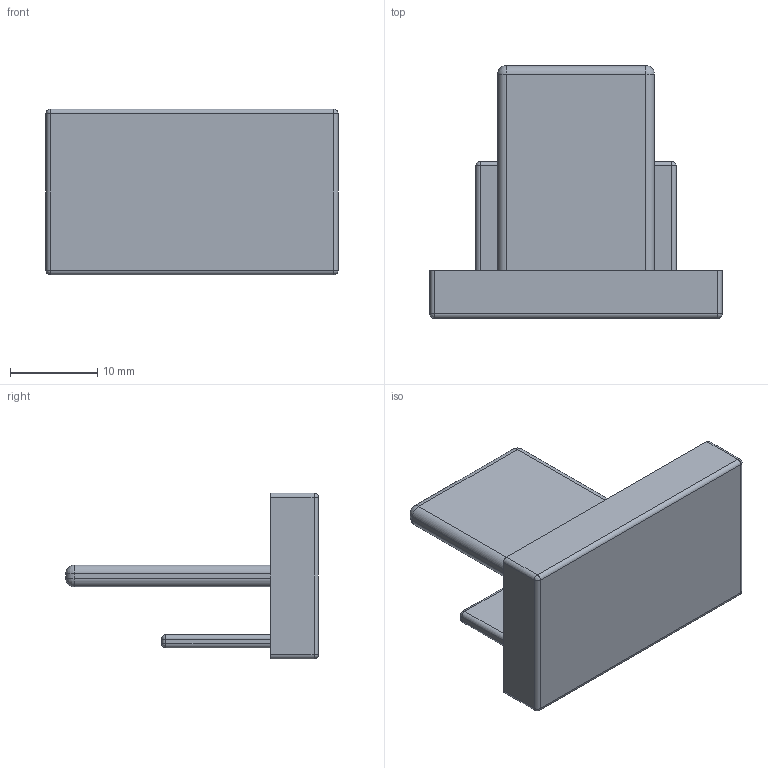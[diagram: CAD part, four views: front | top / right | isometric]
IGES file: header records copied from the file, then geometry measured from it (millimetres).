
Start section: SolidWorks IGES file using analytic representation for surfaces
Global section: file name: D:\Nowodworski\Modele 3D\Lampy\PROFILE TRACK\zakoñczenie.IGS; native system: SolidWorks 2017; preprocessor: SolidWorks 2017; author: DELL; date: 190702.140501; units: millimetre
Bounding box: 33.5 x 29 x 19 mm (x, y, z)
Surface area: 3772.8 mm2 (no closed solid volume)
Topology: 0 solids, 0 shells, 58 faces, 316 edges, 304 vertices
Faces by surface type: revolution 36, bspline 22
